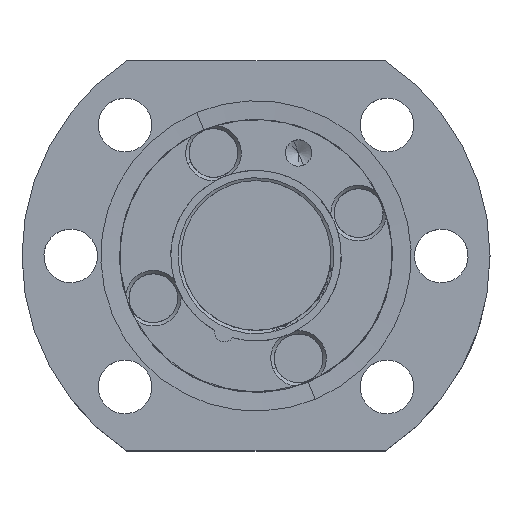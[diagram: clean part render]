
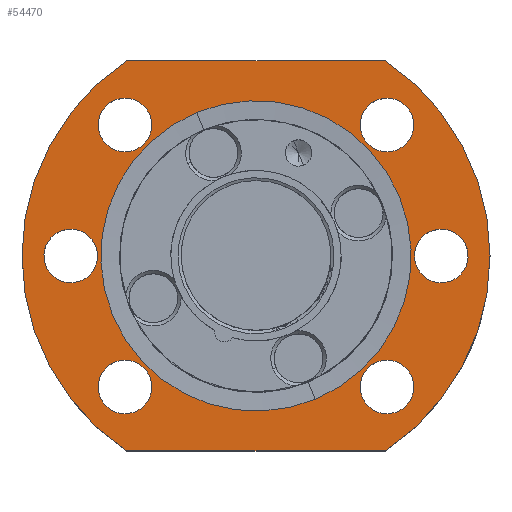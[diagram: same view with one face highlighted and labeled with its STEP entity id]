
A CAD part, top view. The second image highlights one B-rep face of the part: STEP entity #54470.
In plain terms, the highlighted planar face has unit normal (0, 0, 1).
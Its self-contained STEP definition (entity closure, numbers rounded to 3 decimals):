
#53010=CARTESIAN_POINT('',(-9.458,-9.458,12.125));
#53020=DIRECTION('',(0.,-0.,-1.));
#53030=DIRECTION('',(0.707,-0.707,0.));
#53040=AXIS2_PLACEMENT_3D('',#53010,#53020,#53030);
#53050=PLANE('',#53040);
#53060=CARTESIAN_POINT('',(-17.554,-7.271,12.125));
#53070=DIRECTION('',(0.,0.,-1.));
#53080=DIRECTION('',(0.707,-0.707,0.));
#53090=AXIS2_PLACEMENT_3D('',#53060,#53070,#53080);
#53100=CIRCLE('',#53090,2.75);
#53110=CARTESIAN_POINT('',(-15.609,-9.216,12.125));
#53120=VERTEX_POINT('',#53110);
#53130=CARTESIAN_POINT('',(-19.498,-5.326,12.125));
#53140=VERTEX_POINT('',#53130);
#53150=EDGE_CURVE('',#53120,#53140,#53100,.T.);
#53160=ORIENTED_EDGE('',*,*,#53150,.T.);
#53170=EDGE_CURVE('',#53140,#53120,#53100,.T.);
#53180=ORIENTED_EDGE('',*,*,#53170,.T.);
#53190=EDGE_LOOP('',(#53180,#53160));
#53200=FACE_BOUND('',#53190,.T.);
#53210=CARTESIAN_POINT('',(0.,0.,12.125));
#53220=DIRECTION('',(0.,0.,1.));
#53230=DIRECTION('',(-1.,0.,0.));
#53240=AXIS2_PLACEMENT_3D('',#53210,#53220,#53230);
#53250=CIRCLE('',#53240,15.916);
#53260=CARTESIAN_POINT('',(-15.916,0.,12.125));
#53270=VERTEX_POINT('',#53260);
#53280=CARTESIAN_POINT('',(15.916,0.,12.125)
);
#53290=VERTEX_POINT('',#53280);
#53300=EDGE_CURVE('',#53270,#53290,#53250,.T.);
#53310=ORIENTED_EDGE('',*,*,#53300,.F.);
#53320=EDGE_CURVE('',#53290,#53270,#53250,.T.);
#53330=ORIENTED_EDGE('',*,*,#53320,.F.);
#53340=EDGE_LOOP('',(#53330,#53310));
#53350=FACE_BOUND('',#53340,.T.);
#53360=CARTESIAN_POINT('',(-7.271,-17.554,12.125));
#53370=DIRECTION('',(0.,0.,-1.));
#53380=DIRECTION('',(0.707,-0.707,0.));
#53390=AXIS2_PLACEMENT_3D('',#53360,#53370,#53380);
#53400=CIRCLE('',#53390,2.75);
#53410=CARTESIAN_POINT('',(-5.326,-19.498,12.125));
#53420=VERTEX_POINT('',#53410);
#53430=CARTESIAN_POINT('',(-9.216,-15.609,12.125));
#53440=VERTEX_POINT('',#53430);
#53450=EDGE_CURVE('',#53420,#53440,#53400,.T.);
#53460=ORIENTED_EDGE('',*,*,#53450,.T.);
#53470=EDGE_CURVE('',#53440,#53420,#53400,.T.);
#53480=ORIENTED_EDGE('',*,*,#53470,.T.);
#53490=EDGE_LOOP('',(#53480,#53460));
#53500=FACE_BOUND('',#53490,.T.);
#53510=CARTESIAN_POINT('',(7.271,-17.554,12.125));
#53520=DIRECTION('',(0.,0.,-1.));
#53530=DIRECTION('',(0.707,-0.707,0.));
#53540=AXIS2_PLACEMENT_3D('',#53510,#53520,#53530);
#53550=CIRCLE('',#53540,2.75);
#53560=CARTESIAN_POINT('',(9.216,-19.498,12.125));
#53570=VERTEX_POINT('',#53560);
#53580=CARTESIAN_POINT('',(5.326,-15.609,12.125));
#53590=VERTEX_POINT('',#53580);
#53600=EDGE_CURVE('',#53570,#53590,#53550,.T.);
#53610=ORIENTED_EDGE('',*,*,#53600,.T.);
#53620=EDGE_CURVE('',#53590,#53570,#53550,.T.);
#53630=ORIENTED_EDGE('',*,*,#53620,.T.);
#53640=EDGE_LOOP('',(#53630,#53610));
#53650=FACE_BOUND('',#53640,.T.);
#53660=CARTESIAN_POINT('',(7.271,17.554,12.125));
#53670=DIRECTION('',(0.,0.,-1.));
#53680=DIRECTION('',(0.707,-0.707,0.));
#53690=AXIS2_PLACEMENT_3D('',#53660,#53670,#53680);
#53700=CIRCLE('',#53690,2.75);
#53710=CARTESIAN_POINT('',(9.216,15.609,12.125));
#53720=VERTEX_POINT('',#53710);
#53730=CARTESIAN_POINT('',(5.326,19.498,12.125));
#53740=VERTEX_POINT('',#53730);
#53750=EDGE_CURVE('',#53720,#53740,#53700,.T.);
#53760=ORIENTED_EDGE('',*,*,#53750,.T.);
#53770=EDGE_CURVE('',#53740,#53720,#53700,.T.);
#53780=ORIENTED_EDGE('',*,*,#53770,.T.);
#53790=EDGE_LOOP('',(#53780,#53760));
#53800=FACE_BOUND('',#53790,.T.);
#53810=CARTESIAN_POINT('',(-7.271,17.554,12.125));
#53820=DIRECTION('',(0.,0.,-1.));
#53830=DIRECTION('',(0.707,-0.707,0.));
#53840=AXIS2_PLACEMENT_3D('',#53810,#53820,#53830);
#53850=CIRCLE('',#53840,2.75);
#53860=CARTESIAN_POINT('',(-5.326,15.609,12.125));
#53870=VERTEX_POINT('',#53860);
#53880=CARTESIAN_POINT('',(-9.216,19.498,12.125));
#53890=VERTEX_POINT('',#53880);
#53900=EDGE_CURVE('',#53870,#53890,#53850,.T.);
#53910=ORIENTED_EDGE('',*,*,#53900,.T.);
#53920=EDGE_CURVE('',#53890,#53870,#53850,.T.);
#53930=ORIENTED_EDGE('',*,*,#53920,.T.);
#53940=EDGE_LOOP('',(#53930,#53910));
#53950=FACE_BOUND('',#53940,.T.);
#53960=CARTESIAN_POINT('',(17.554,7.271,12.125));
#53970=DIRECTION('',(0.,0.,-1.));
#53980=DIRECTION('',(0.707,-0.707,0.));
#53990=AXIS2_PLACEMENT_3D('',#53960,#53970,#53980);
#54000=CIRCLE('',#53990,2.75);
#54010=CARTESIAN_POINT('',(19.498,5.326,12.125));
#54020=VERTEX_POINT('',#54010);
#54030=CARTESIAN_POINT('',(15.609,9.216,12.125));
#54040=VERTEX_POINT('',#54030);
#54050=EDGE_CURVE('',#54020,#54040,#54000,.T.);
#54060=ORIENTED_EDGE('',*,*,#54050,.T.);
#54070=EDGE_CURVE('',#54040,#54020,#54000,.T.);
#54080=ORIENTED_EDGE('',*,*,#54070,.T.);
#54090=EDGE_LOOP('',(#54080,#54060));
#54100=FACE_BOUND('',#54090,.T.);
#54110=CARTESIAN_POINT('',(0.,0.,12.125));
#54120=DIRECTION('',(0.,0.,-1.));
#54130=DIRECTION('',(0.707,-0.707,0.));
#54140=AXIS2_PLACEMENT_3D('',#54110,#54120,#54130);
#54150=CIRCLE('',#54140,24.);
#54160=CARTESIAN_POINT('',(-13.401,19.91,12.125));
#54170=VERTEX_POINT('',#54160);
#54180=CARTESIAN_POINT('',(23.554,4.603,12.125));
#54190=VERTEX_POINT('',#54180);
#54200=EDGE_CURVE('',#54170,#54190,#54150,.T.);
#54210=ORIENTED_EDGE('',*,*,#54200,.F.);
#54220=CARTESIAN_POINT('',(21.648,0.,12.125));
#54230=DIRECTION('',(0.383,0.924,0.));
#54240=VECTOR('',#54230,1.);
#54250=LINE('',#54220,#54240);
#54260=CARTESIAN_POINT('',(13.401,-19.91,12.125));
#54270=VERTEX_POINT('',#54260);
#54280=EDGE_CURVE('',#54270,#54190,#54250,.T.);
#54290=ORIENTED_EDGE('',*,*,#54280,.T.);
#54300=CARTESIAN_POINT('',(0.,0.,12.125));
#54310=DIRECTION('',(0.,0.,-1.));
#54320=DIRECTION('',(0.707,-0.707,0.));
#54330=AXIS2_PLACEMENT_3D('',#54300,#54310,#54320);
#54340=CIRCLE('',#54330,24.);
#54350=CARTESIAN_POINT('',(-23.554,-4.603,12.125));
#54360=VERTEX_POINT('',#54350);
#54370=EDGE_CURVE('',#54270,#54360,#54340,.T.);
#54380=ORIENTED_EDGE('',*,*,#54370,.F.);
#54390=CARTESIAN_POINT('',(-21.648,0.,12.125));
#54400=DIRECTION('',(0.383,0.924,0.));
#54410=VECTOR('',#54400,1.);
#54420=LINE('',#54390,#54410);
#54430=EDGE_CURVE('',#54360,#54170,#54420,.T.);
#54440=ORIENTED_EDGE('',*,*,#54430,.F.);
#54450=EDGE_LOOP('',(#54440,#54380,#54290,#54210));
#54460=FACE_OUTER_BOUND('',#54450,.T.);
#54470=ADVANCED_FACE('',(#53200,#53350,#53500,#53650,#53800,#53950,
#54100,#54460),#53050,.F.);
